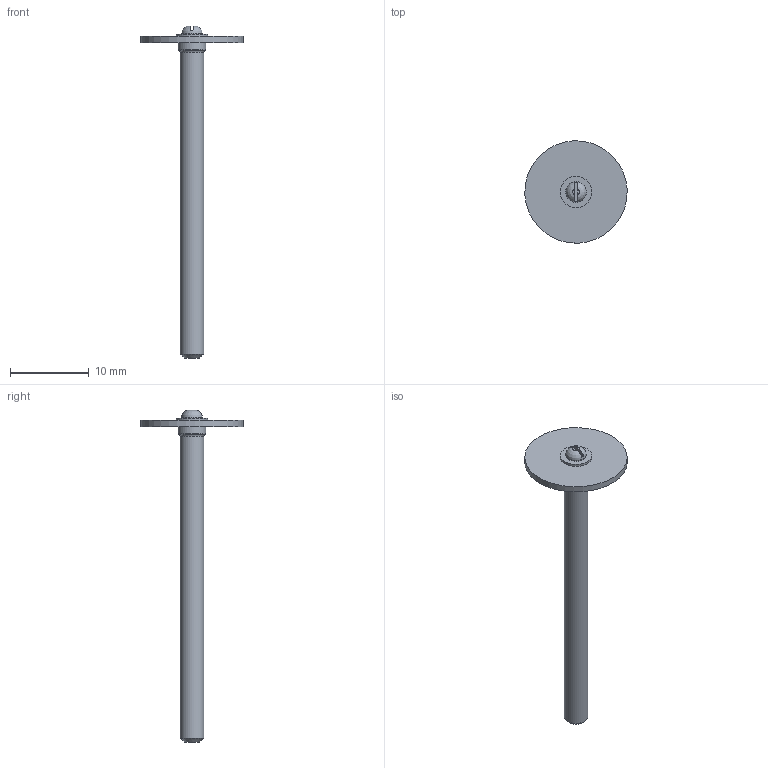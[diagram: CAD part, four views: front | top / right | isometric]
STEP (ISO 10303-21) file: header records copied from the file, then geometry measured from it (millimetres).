
FILE_DESCRIPTION(/* description */ (''),/* implementation_level */ '2;1');
FILE_NAME(/* name */ 'UF7313.stp',/* time_stamp */ '2026-08-10T11:52:44+03:00',/* author */ ('harel'),/* organization */ (''),/* preprocessor_version */ 'ST-DEVELOPER v20',/* originating_system */ 'Autodesk Inventor 2025',/* authorisation */ '');
FILE_SCHEMA (('AUTOMOTIVE_DESIGN { 1 0 10303 214 3 1 1 }'));
Length unit declared in the file: millimetre
Products named in the file (5): UF7313; Part5; disk; CNS 9671 - M1.4 x 4; ISO 7091 - ST 1.6 - 100 HV
Assembly tree (4 placements, depth 2):
  UF7313
    Part5
    disk
    CNS 9671 - M1.4 x 4
    ISO 7091 - ST 1.6 - 100 HV
Bounding box: 12.98 x 12.98 x 42.12 mm (x, y, z)
Volume: 396.5 mm3; surface area: 768.8 mm2
Topology: 4 solids, 4 shells, 30 faces, 55 edges, 35 vertices
Faces by surface type: plane 12, cylinder 9, cone 4, torus 2, sphere 2, bspline 1
Full cylindrical faces by diameter (mm): 1.183 x1, 1.216 x1, 1.4 x1, 1.6 x1, 1.8 x1, 3 x1, 3.5 x1, 4 x1, 13 x1
Entity records: 1038 total; most frequent: CARTESIAN_POINT 194, DIRECTION 163, ORIENTED_EDGE 110, AXIS2_PLACEMENT_3D 74, EDGE_CURVE 55, EDGE_LOOP 36, CIRCLE 35, VERTEX_POINT 35
